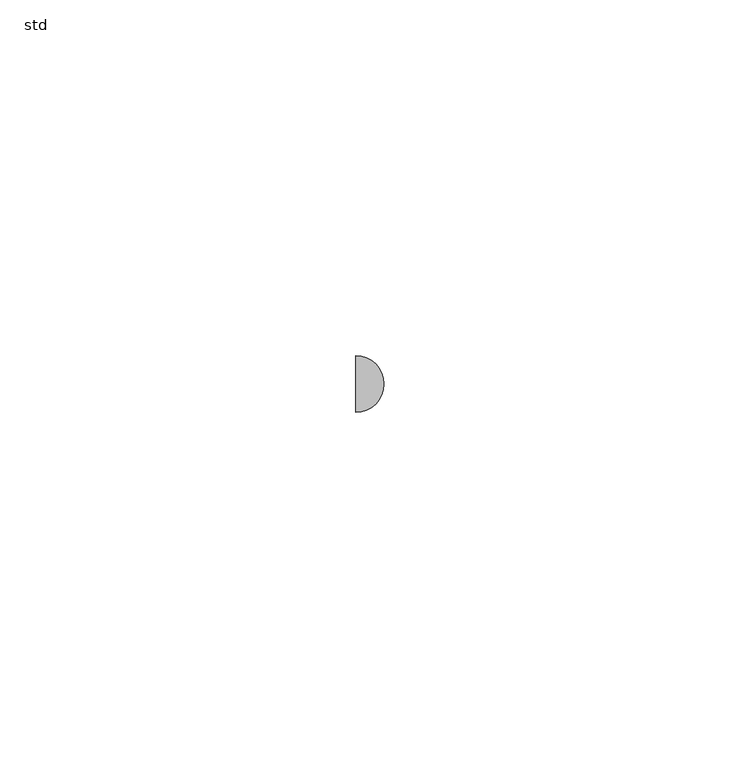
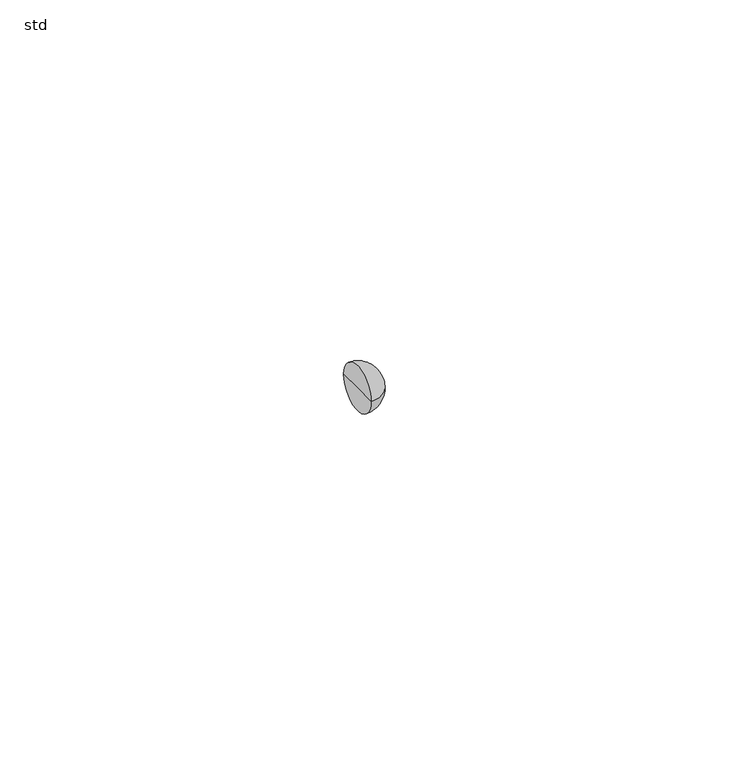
"""IFC4 building model written with IfcOpenShell, lengths in millimetres: pipe fitting geometry, PIF_ST_UN_GM-X multireducer_ACO : std."""

from ifc_helpers import new_model, si_unit, point, frame, origin, place, context, project, spatial, circle_curve, ellipse_curve, trimmed, source, transform, mapped, element, save
from ifc_brep_helpers import plane_surface, revolved_surface, advanced_brep


def std_f0aeaa4e(model_context):
    return source(origin(), model_context, "Body", "AdvancedBrep", [
        advanced_brep(
        [(-197.0, 0.0, 0.0), (-197.0, 4.0, 0.0), (-197.0, -4.0, 0.0), (-193.0, 0.0, 0.0)],
        [
            (0, 1),
            (1, 2, circle_curve(frame((-197.0, 0.0, 0.0), z_axis=(-1.0, 0.0, 0.0), x_axis=(0.0, 1.0, 0.0)), 4.0)),
            (2, 0),
            (2, 1, circle_curve(frame((-197.0, 0.0, 0.0), z_axis=(-1.0, 0.0, 0.0), x_axis=(0.0, 1.0, 0.0)), 4.0)),
            (1, 3, circle_curve(frame((-197.0, 0.0, 0.0), z_axis=(0.0, 0.0, -1.0), x_axis=(1.0, 0.0, 0.0)), 4.0)),
            (3, 2, circle_curve(frame((-197.0, 0.0, 0.0), z_axis=(0.0, 0.0, -1.0), x_axis=(1.0, 0.0, 0.0)), 4.0)),
        ],
        [
            plane_surface(frame((-197.0, 0.0, 0.0), z_axis=(-1.0, 0.0, 0.0), x_axis=(0.0, 1.0, 0.0))),
            revolved_surface(trimmed(ellipse_curve(frame((-197.0, 0.0, 0.0), z_axis=(0.0, 0.0, 1.0), x_axis=(1.0, 0.0, 0.0)), 4.0, 4.0), [point((-193.0, 0.0, 0.0))], [point((-197.0, 4.0, 0.0))], True, "CARTESIAN"), (-210.6508039, 0.0, 0.0), (-1.0, 0.0, 0.0)),
        ],
        [
            (0, [[1, 2, 3]]),
            (0, [[-3, 4, -1]]),
            (1, [[-2, 5, 6]]),
            (1, [[-4, -6, -5]]),
        ],
    ),
    ])


if __name__ == "__main__":
    model = new_model("IFC4")
    model_context = context("Model", 3, world=origin())
    ifc_project = project(units=[si_unit("LENGTHUNIT", "METRE", prefix="MILLI")], contexts=[model_context])
    site = spatial("IfcSite", under=ifc_project)
    building = spatial("IfcBuilding", under=site)
    placement = place(None, origin())
    std_shape = std_f0aeaa4e(model_context)
    element("IfcPipeFitting", 1, ObjectType="PIF_ST_UN_GM-X multireducer_ACO : std", at=placement, inside=building, context=model_context, shape_type="MappedRepresentation", body=[
        mapped(std_shape, transform((0.0, 0.0, 0.0), x_axis=(1.0, 0.0, 0.0), y_axis=(0.0, 1.0, 0.0), z_axis=(0.0, 0.0, 1.0))),
    ])
    save(model, "model.ifc")
